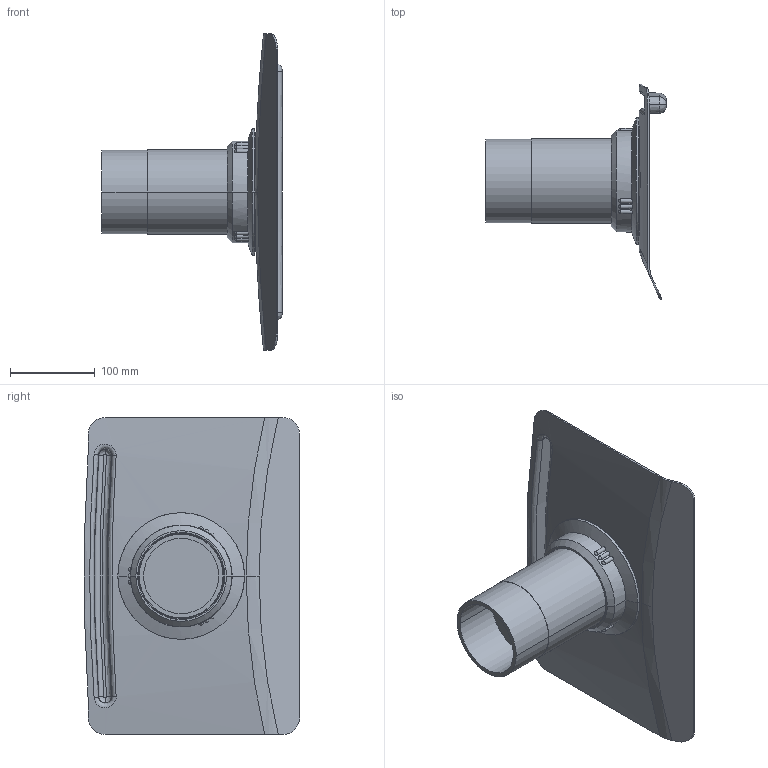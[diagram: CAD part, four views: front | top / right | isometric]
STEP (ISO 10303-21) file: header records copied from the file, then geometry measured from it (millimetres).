
FILE_DESCRIPTION((''),'2;1');
FILE_NAME('MEPH375-100','2015-12-02T',('Tomas Bellgran'),(''),'PRO/ENGINEER BY PARAMETRIC TECHNOLOGY CORPORATION, 2013410','PRO/ENGINEER BY PARAMETRIC TECHNOLOGY CORPORATION, 2013410','');
FILE_SCHEMA(('AUTOMOTIVE_DESIGN { 1 0 10303 214 1 1 1 1 }'));
Length unit declared in the file: millimetre
Products named in the file (6): 105-878_AF0; 117041_AF0; 117016; 116461; 117031; MEPH375-100
Assembly tree (5 placements, depth 3):
  MEPH375-100
    117016
      105-878_AF0
      117041_AF0
    116461
    117031
Bounding box: 213.4 x 254.45 x 375 mm (x, y, z)
Volume: 1327146.7 mm3; surface area: 357173.5 mm2
Topology: 4 solids, 4 shells, 145 faces, 358 edges, 224 vertices
Faces by surface type: bspline 54, cylinder 32, cone 28, plane 25, torus 6
Entity records: 11045 total; most frequent: CARTESIAN_POINT 5859, ORIENTED_EDGE 716, DIRECTION 596, EDGE_CURVE 358, AXIS2_PLACEMENT_3D 264, PROPERTY_DEFINITION 237, REPRESENTATION 233, PROPERTY_DEFINITION_REPRESENTATION 233
